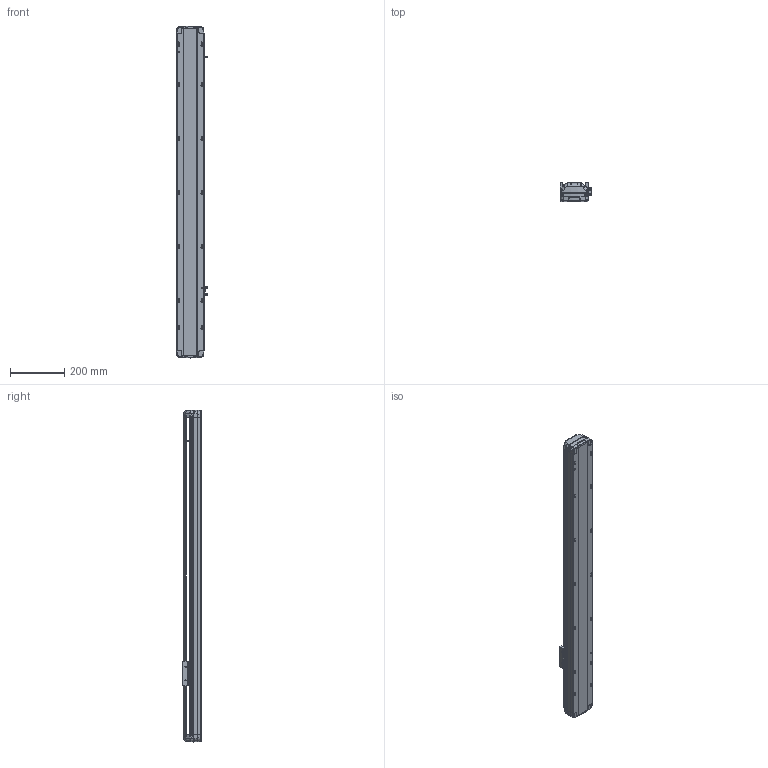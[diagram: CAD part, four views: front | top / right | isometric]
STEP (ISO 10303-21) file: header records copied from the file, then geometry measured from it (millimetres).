
FILE_DESCRIPTION (( 'STEP AP214' ), '1' );
FILE_NAME ('RTH10-XX-850-B-M10-C4.STEP', '2025-10-25T05:16:53', ( 'Microsoft' ), ( 'Microsoft' ), 'SwSTEP 2.0', 'SolidWorks 2018', '' );
FILE_SCHEMA (( 'AUTOMOTIVE_DESIGN' ));
Length unit declared in the file: millimetre
Products named in the file (7): N_RTH12-B-011P-臏倰第菁釱^RTH10-XX-XX-B-M10-C4; N_RTH12-GY-004-賑釱^RTH10-XX-XX-B-M10-C4; RTH10-XX-850-B-M10-C4; N_RTH12-GY-001P^RTH10-XX-XX-B-M10-C4; N_RTH13-L-012覜茼え俋离^RTH10-XX-XX-B-M10-C4; N_OMRON EE-SX672 传感器^RTH10-XX-XX-B-M10-C4; N_RTH12-B-007P-奻裔^RTH10-XX-XX-B-M10-C4
Assembly tree (9 placements, depth 2):
  RTH10-XX-850-B-M10-C4
    N_RTH12-B-011P-臏倰第菁釱^RTH10-XX-XX-B-M10-C4
    N_RTH13-L-012覜茼え俋离^RTH10-XX-XX-B-M10-C4
    N_OMRON EE-SX672 传感器^RTH10-XX-XX-B-M10-C4  x3
    N_RTH12-B-007P-奻裔^RTH10-XX-XX-B-M10-C4
    N_RTH12-GY-004-賑釱^RTH10-XX-XX-B-M10-C4
    N_RTH12-GY-001P^RTH10-XX-XX-B-M10-C4  x2
Bounding box: 116.5 x 70 x 1229.61 mm (x, y, z)
Volume: 4603070.9 mm3; surface area: 734653.9 mm2
Topology: 7 solids, 11 shells, 2220 faces, 6232 edges, 4080 vertices
Faces by surface type: plane 1057, bspline 712, cylinder 431, cone 16, torus 4
Entity records: 50348 total; most frequent: CARTESIAN_POINT 21798, ORIENTED_EDGE 6592, DIRECTION 4660, EDGE_CURVE 3302, VERTEX_POINT 2167, VECTOR 1694, LINE 1694, AXIS2_PLACEMENT_3D 1483
